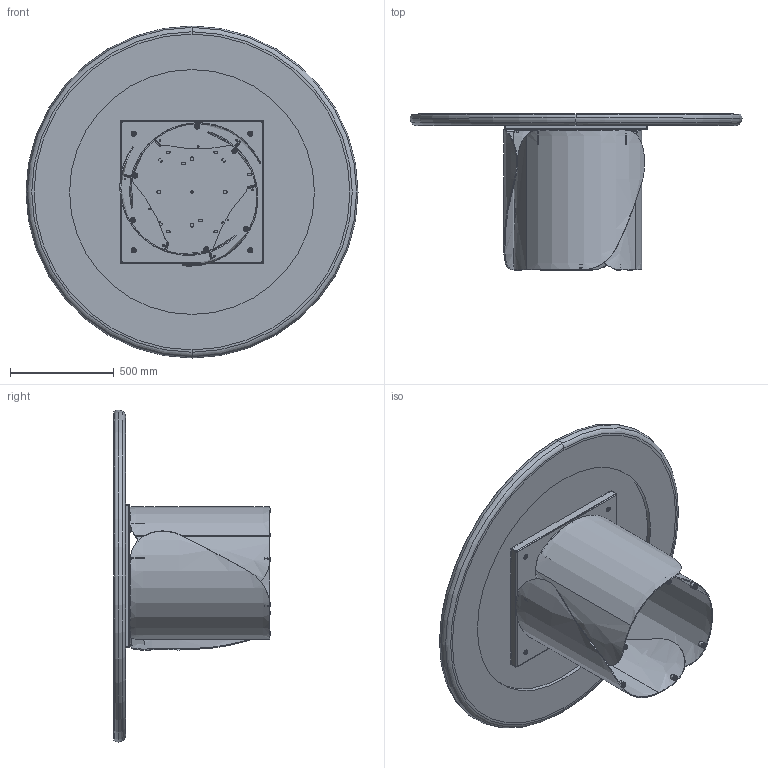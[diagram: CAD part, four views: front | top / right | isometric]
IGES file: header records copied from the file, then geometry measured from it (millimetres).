
Start section: SolidWorks IGES file using analytic representation for surfaces
Global section: file name: Y:\eforma\TECNICO\SOLIDWORKS\E-FORMA\1-TAVOLI\ONDA\08 modelli 3D web\ON07K_Onda_d.160_King.IGS; native system: SolidWorks 2022; preprocessor: SolidWorks 2022; author: eforma.tech; date: 240801.135343; units: millimetre
Bounding box: 1600 x 752 x 1600 mm (x, y, z)
Volume: 99008097.9 mm3; surface area: 12835317.6 mm2
Topology: 63 solids, 63 shells, 1719 faces, 4045 edges, 2482 vertices
Faces by surface type: revolution 981, plane 678, bspline 60
